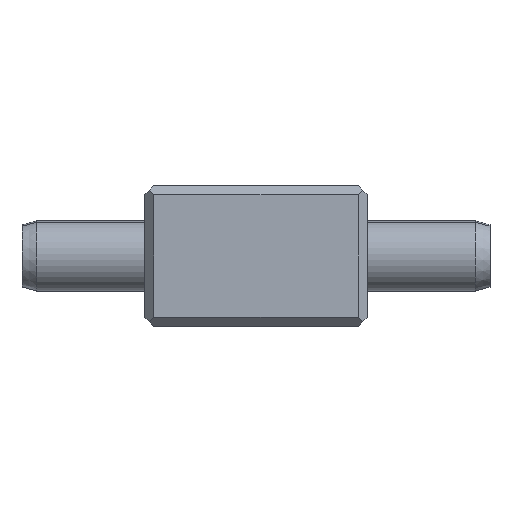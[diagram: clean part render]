
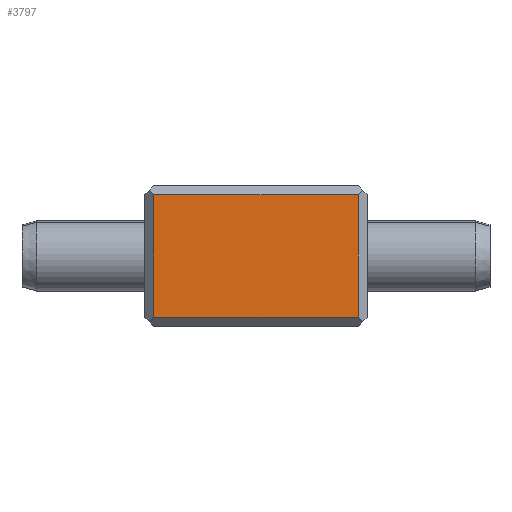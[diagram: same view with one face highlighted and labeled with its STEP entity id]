
A CAD part, front view. The second image highlights one B-rep face of the part: STEP entity #3797.
In plain terms, the highlighted planar face has unit normal (0, -1, 0).
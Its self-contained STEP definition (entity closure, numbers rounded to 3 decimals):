
#367 = AXIS2_PLACEMENT_3D ( 'NONE', #7982, #8009, #7978 ) ;
#654 = EDGE_CURVE ( 'NONE', #4736, #4735, #5184, .T. ) ;
#699 = EDGE_CURVE ( 'NONE', #4735, #4775, #5251, .T. ) ;
#717 = EDGE_CURVE ( 'NONE', #4775, #4734, #5274, .T. ) ;
#742 = EDGE_CURVE ( 'NONE', #4734, #4736, #5319, .T. ) ;
#3797 = ADVANCED_FACE ( 'NONE', ( #8005 ), #7997, .F. ) ;
#4088 = EDGE_LOOP ( 'NONE', ( #5149, #5116, #5152, #5126 ) ) ;
#4734 = VERTEX_POINT ( 'NONE', #7385 ) ;
#4735 = VERTEX_POINT ( 'NONE', #7391 ) ;
#4736 = VERTEX_POINT ( 'NONE', #7366 ) ;
#4775 = VERTEX_POINT ( 'NONE', #7399 ) ;
#5116 = ORIENTED_EDGE ( 'NONE', *, *, #742, .T. ) ;
#5126 = ORIENTED_EDGE ( 'NONE', *, *, #699, .T. ) ;
#5149 = ORIENTED_EDGE ( 'NONE', *, *, #717, .T. ) ;
#5152 = ORIENTED_EDGE ( 'NONE', *, *, #654, .T. ) ;
#5178 = CARTESIAN_POINT ( 'NONE',  ( -19., -20., -10.5 ) ) ;
#5184 = LINE ( 'NONE', #5178, #7006 ) ;
#5186 = DIRECTION ( 'NONE',  ( 1., 0., 0. ) ) ;
#5216 = DIRECTION ( 'NONE',  ( 0., 0., 1. ) ) ;
#5251 = LINE ( 'NONE', #5252, #6996 ) ;
#5252 = CARTESIAN_POINT ( 'NONE',  ( 17.5, -20., 12. ) ) ;
#5258 = DIRECTION ( 'NONE',  ( -1., 0., 0. ) ) ;
#5274 = LINE ( 'NONE', #5282, #7021 ) ;
#5282 = CARTESIAN_POINT ( 'NONE',  ( -19., -20., 10.5 ) ) ;
#5305 = DIRECTION ( 'NONE',  ( 0., 0., -1. ) ) ;
#5319 = LINE ( 'NONE', #5320, #7080 ) ;
#5320 = CARTESIAN_POINT ( 'NONE',  ( -17.5, -20., 12. ) ) ;
#6996 = VECTOR ( 'NONE', #5216, 1000. ) ;
#7006 = VECTOR ( 'NONE', #5186, 1000. ) ;
#7021 = VECTOR ( 'NONE', #5258, 1000. ) ;
#7080 = VECTOR ( 'NONE', #5305, 1000. ) ;
#7366 = CARTESIAN_POINT ( 'NONE',  ( -17.5, -20., -10.5 ) ) ;
#7385 = CARTESIAN_POINT ( 'NONE',  ( -17.5, -20., 10.5 ) ) ;
#7391 = CARTESIAN_POINT ( 'NONE',  ( 17.5, -20., -10.5 ) ) ;
#7399 = CARTESIAN_POINT ( 'NONE',  ( 17.5, -20., 10.5 ) ) ;
#7978 = DIRECTION ( 'NONE',  ( -1., 0., 0. ) ) ;
#7982 = CARTESIAN_POINT ( 'NONE',  ( -19., -20., 12. ) ) ;
#7997 = PLANE ( 'NONE',  #367 ) ;
#8005 = FACE_OUTER_BOUND ( 'NONE', #4088, .T. ) ;
#8009 = DIRECTION ( 'NONE',  ( 0., 1., 0. ) ) ;
